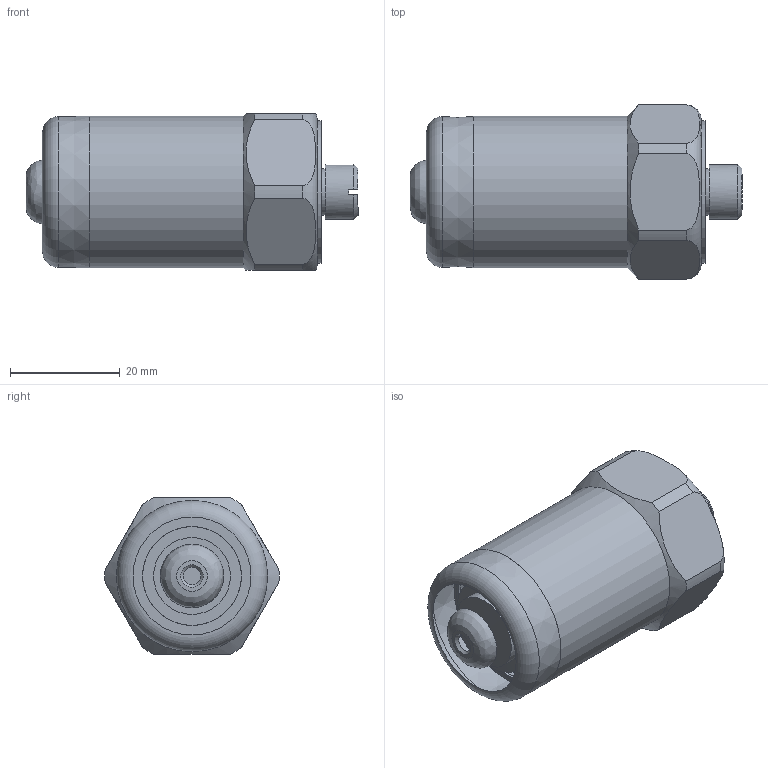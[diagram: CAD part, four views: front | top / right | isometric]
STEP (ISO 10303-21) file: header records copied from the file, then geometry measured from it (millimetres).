
FILE_DESCRIPTION(/* description */ (''),/* implementation_level */ '2;1');
FILE_NAME(/* name */ 'Z:\Engineering\Drawings\3D Library\Assemblies\Website\420 Velocity\HS-420XXX0210.stp',/* time_stamp */ '2023-05-03T13:36:21+01:00',/* author */ ('Ricardo.Peneda'),/* organization */ (''),/* preprocessor_version */ 'ST-DEVELOPER v18.1',/* originating_system */ 'Autodesk Inventor 2021',/* authorisation */ '');
FILE_SCHEMA (('AUTOMOTIVE_DESIGN { 1 0 10303 214 3 1 1 }'));
Length unit declared in the file: inch
Products named in the file (1): HS-420XXX0210_Shrinkwrap_1
Bounding box: 60.37 x 31.69 x 28.5 mm (x, y, z)
Volume: 15072.7 mm3; surface area: 10587.7 mm2
Topology: 3 solids, 3 shells, 63 faces, 172 edges, 120 vertices
Faces by surface type: plane 25, cone 19, cylinder 16, torus 2, bspline 1
Full cylindrical faces by diameter (mm): 5 x1, 6.3 x1, 6.35 x1, 7 x1, 7.5 x1, 8.5 x1, 10 x1, 25.3 x1, 26 x1, 27.5 x1
Entity records: 2304 total; most frequent: CARTESIAN_POINT 544, DIRECTION 373, ORIENTED_EDGE 344, EDGE_CURVE 172, AXIS2_PLACEMENT_3D 160, VERTEX_POINT 120, CIRCLE 97, EDGE_LOOP 70
